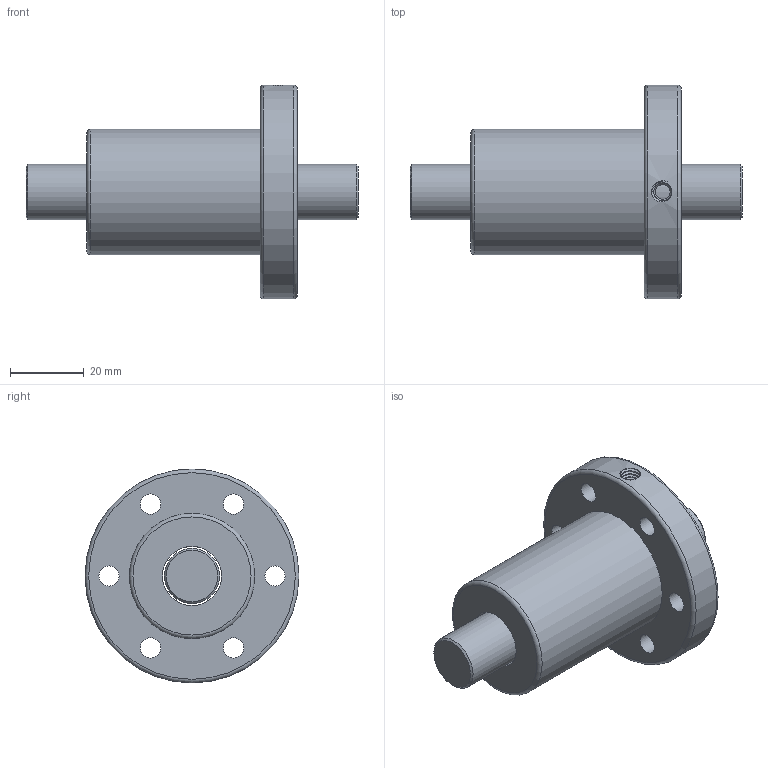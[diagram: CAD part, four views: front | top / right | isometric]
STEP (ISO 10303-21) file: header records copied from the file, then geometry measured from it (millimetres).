
FILE_DESCRIPTION (( 'STEP AP203' ), '1' );
FILE_NAME ('SFV01510-2.7.STEP', '2023-08-16T03:10:57', ( '' ), ( '' ), 'SwSTEP 2.0', 'SolidWorks 2022', '' );
FILE_SCHEMA (( 'CONFIG_CONTROL_DESIGN' ));
Length unit declared in the file: millimetre
Products named in the file (1): SFV01510-2.7
Bounding box: 90 x 58 x 58 mm (x, y, z)
Volume: 70086 mm3; surface area: 20469.7 mm2
Topology: 2 solids, 2 shells, 39 faces, 77 edges, 49 vertices
Faces by surface type: cylinder 19, plane 12, cone 3, torus 3, bspline 2
Full cylindrical faces by diameter (mm): 4 x1, 5.5 x6, 9.5 x6, 15 x1, 16 x1, 34 x1, 58 x1
Entity records: 3022 total; most frequent: CARTESIAN_POINT 2205, DIRECTION 158, ORIENTED_EDGE 104, EDGE_LOOP 85, AXIS2_PLACEMENT_3D 79, FACE_OUTER_BOUND 59, EDGE_CURVE 52, VERTEX_POINT 47
